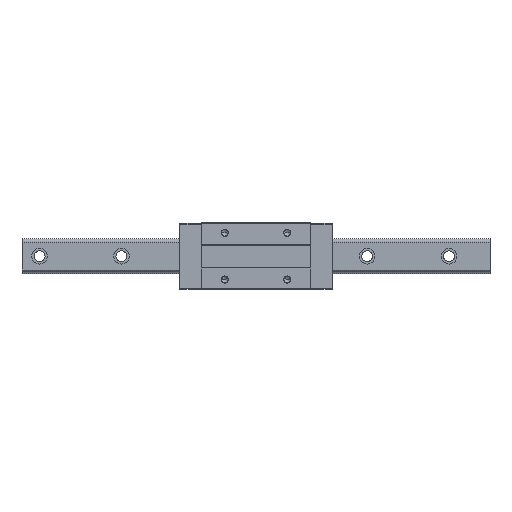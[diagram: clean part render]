
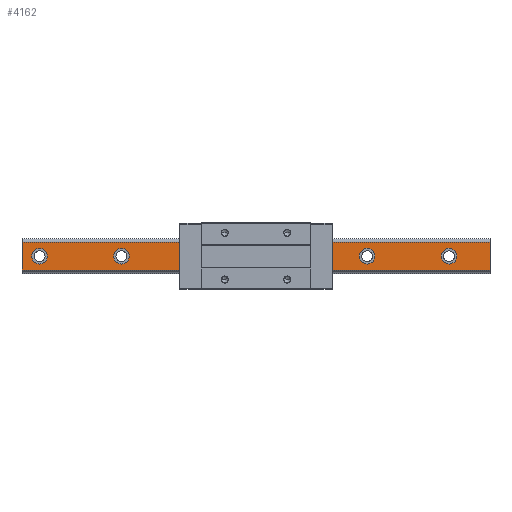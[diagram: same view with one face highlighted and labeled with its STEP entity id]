
A CAD part, top view. The second image highlights one B-rep face of the part: STEP entity #4162.
In plain terms, the highlighted planar face has unit normal (0, 0, 1).
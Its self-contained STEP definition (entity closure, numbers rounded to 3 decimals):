
#39 = ORIENTED_EDGE ( 'NONE', *, *, #1116, .F. ) ;
#43 = CARTESIAN_POINT ( 'NONE',  ( 37.5, 0., 32. ) ) ;
#102 = CARTESIAN_POINT ( 'NONE',  ( -162.5, 0., 32. ) ) ;
#106 = ORIENTED_EDGE ( 'NONE', *, *, #593, .F. ) ;
#157 = CARTESIAN_POINT ( 'NONE',  ( 300., -17.696, 32. ) ) ;
#190 = DIRECTION ( 'NONE',  ( 0., -1., 0. ) ) ;
#211 = VERTEX_POINT ( 'NONE', #3973 ) ;
#224 = DIRECTION ( 'NONE',  ( -1., 0., 0. ) ) ;
#291 = LINE ( 'NONE', #5341, #3657 ) ;
#531 = VERTEX_POINT ( 'NONE', #1615 ) ;
#534 = PLANE ( 'NONE',  #5217 ) ;
#586 = CARTESIAN_POINT ( 'NONE',  ( -67.5, 0., 32. ) ) ;
#593 = EDGE_CURVE ( 'NONE', #531, #3834, #2947, .T. ) ;
#600 = EDGE_LOOP ( 'NONE', ( #4844, #4941 ) ) ;
#648 = CIRCLE ( 'NONE', #1095, 10. ) ;
#811 = EDGE_CURVE ( 'NONE', #5407, #531, #291, .T. ) ;
#845 = CIRCLE ( 'NONE', #3008, 10. ) ;
#907 = DIRECTION ( 'NONE',  ( 0., 0., 1. ) ) ;
#943 = EDGE_CURVE ( 'NONE', #5407, #4430, #1106, .T. ) ;
#956 = FACE_BOUND ( 'NONE', #1459, .T. ) ;
#988 = CARTESIAN_POINT ( 'NONE',  ( -182.5, 0., 32. ) ) ;
#1011 = EDGE_CURVE ( 'NONE', #3149, #5483, #1248, .T. ) ;
#1034 = DIRECTION ( 'NONE',  ( 0., 0., 1. ) ) ;
#1044 = FACE_BOUND ( 'NONE', #2708, .T. ) ;
#1079 = EDGE_CURVE ( 'NONE', #2415, #4483, #3605, .T. ) ;
#1095 = AXIS2_PLACEMENT_3D ( 'NONE', #43, #4334, #4360 ) ;
#1106 = LINE ( 'NONE', #3215, #4690 ) ;
#1116 = EDGE_CURVE ( 'NONE', #4483, #2415, #1344, .T. ) ;
#1248 = CIRCLE ( 'NONE', #4322, 10. ) ;
#1250 = CARTESIAN_POINT ( 'NONE',  ( 37.5, 0., 32. ) ) ;
#1256 = AXIS2_PLACEMENT_3D ( 'NONE', #5539, #3000, #4724 ) ;
#1344 = CIRCLE ( 'NONE', #1791, 10. ) ;
#1392 = EDGE_CURVE ( 'NONE', #5483, #3149, #4118, .T. ) ;
#1401 = DIRECTION ( 'NONE',  ( 1., 0., 0. ) ) ;
#1422 = ORIENTED_EDGE ( 'NONE', *, *, #943, .T. ) ;
#1437 = ORIENTED_EDGE ( 'NONE', *, *, #1011, .F. ) ;
#1459 = EDGE_LOOP ( 'NONE', ( #1437, #4706 ) ) ;
#1462 = AXIS2_PLACEMENT_3D ( 'NONE', #2326, #4516, #4093 ) ;
#1493 = AXIS2_PLACEMENT_3D ( 'NONE', #4880, #4827, #4851 ) ;
#1607 = DIRECTION ( 'NONE',  ( 1., 0., 0. ) ) ;
#1615 = CARTESIAN_POINT ( 'NONE',  ( 300., -17.696, 32. ) ) ;
#1639 = VECTOR ( 'NONE', #2518, 1000. ) ;
#1665 = AXIS2_PLACEMENT_3D ( 'NONE', #2670, #3160, #1401 ) ;
#1740 = EDGE_CURVE ( 'NONE', #2689, #1916, #3936, .T. ) ;
#1743 = ORIENTED_EDGE ( 'NONE', *, *, #1740, .F. ) ;
#1791 = AXIS2_PLACEMENT_3D ( 'NONE', #2367, #2421, #1607 ) ;
#1887 = DIRECTION ( 'NONE',  ( 0., 0., -1. ) ) ;
#1916 = VERTEX_POINT ( 'NONE', #5537 ) ;
#1971 = ORIENTED_EDGE ( 'NONE', *, *, #2696, .T. ) ;
#2039 = EDGE_LOOP ( 'NONE', ( #2811, #3130 ) ) ;
#2049 = CARTESIAN_POINT ( 'NONE',  ( -172.5, 0., 32. ) ) ;
#2056 = AXIS2_PLACEMENT_3D ( 'NONE', #3543, #907, #2659 ) ;
#2128 = CARTESIAN_POINT ( 'NONE',  ( 300., 17.696, 32. ) ) ;
#2129 = CARTESIAN_POINT ( 'NONE',  ( 152.5, 0., 32. ) ) ;
#2253 = VERTEX_POINT ( 'NONE', #2701 ) ;
#2293 = ORIENTED_EDGE ( 'NONE', *, *, #3530, .F. ) ;
#2308 = FACE_BOUND ( 'NONE', #600, .T. ) ;
#2326 = CARTESIAN_POINT ( 'NONE',  ( -277.5, 0., 32. ) ) ;
#2367 = CARTESIAN_POINT ( 'NONE',  ( 142.5, 0., 32. ) ) ;
#2379 = CARTESIAN_POINT ( 'NONE',  ( -300., 17.696, 32. ) ) ;
#2395 = CARTESIAN_POINT ( 'NONE',  ( 142.5, 0., 32. ) ) ;
#2415 = VERTEX_POINT ( 'NONE', #2129 ) ;
#2421 = DIRECTION ( 'NONE',  ( 0., 0., 1. ) ) ;
#2512 = ORIENTED_EDGE ( 'NONE', *, *, #4508, .F. ) ;
#2518 = DIRECTION ( 'NONE',  ( -1., 0., 0. ) ) ;
#2605 = AXIS2_PLACEMENT_3D ( 'NONE', #2395, #4187, #3798 ) ;
#2659 = DIRECTION ( 'NONE',  ( 1., 0., 0. ) ) ;
#2670 = CARTESIAN_POINT ( 'NONE',  ( -172.5, 0., 32. ) ) ;
#2679 = EDGE_LOOP ( 'NONE', ( #1743, #2512 ) ) ;
#2682 = FACE_BOUND ( 'NONE', #4090, .T. ) ;
#2689 = VERTEX_POINT ( 'NONE', #4506 ) ;
#2696 = EDGE_CURVE ( 'NONE', #4430, #3834, #4563, .T. ) ;
#2701 = CARTESIAN_POINT ( 'NONE',  ( 27.5, 0., 32. ) ) ;
#2708 = EDGE_LOOP ( 'NONE', ( #2293, #4023 ) ) ;
#2772 = EDGE_CURVE ( 'NONE', #4699, #211, #845, .T. ) ;
#2811 = ORIENTED_EDGE ( 'NONE', *, *, #3442, .F. ) ;
#2947 = LINE ( 'NONE', #4589, #1639 ) ;
#3000 = DIRECTION ( 'NONE',  ( 0., 0., 1. ) ) ;
#3003 = CIRCLE ( 'NONE', #1462, 10. ) ;
#3008 = AXIS2_PLACEMENT_3D ( 'NONE', #3553, #3444, #5166 ) ;
#3130 = ORIENTED_EDGE ( 'NONE', *, *, #3818, .F. ) ;
#3149 = VERTEX_POINT ( 'NONE', #102 ) ;
#3160 = DIRECTION ( 'NONE',  ( 0., 0., 1. ) ) ;
#3215 = CARTESIAN_POINT ( 'NONE',  ( 300., 17.696, 32. ) ) ;
#3222 = CARTESIAN_POINT ( 'NONE',  ( 47.5, 0., 32. ) ) ;
#3267 = EDGE_LOOP ( 'NONE', ( #1971, #106, #4655, #1422 ) ) ;
#3281 = VECTOR ( 'NONE', #190, 1000. ) ;
#3415 = CIRCLE ( 'NONE', #2056, 10. ) ;
#3418 = VERTEX_POINT ( 'NONE', #3850 ) ;
#3440 = DIRECTION ( 'NONE',  ( 1., 0., 0. ) ) ;
#3442 = EDGE_CURVE ( 'NONE', #3510, #3418, #3709, .T. ) ;
#3443 = AXIS2_PLACEMENT_3D ( 'NONE', #586, #1034, #4074 ) ;
#3444 = DIRECTION ( 'NONE',  ( 0., 0., 1. ) ) ;
#3500 = CIRCLE ( 'NONE', #4049, 10. ) ;
#3510 = VERTEX_POINT ( 'NONE', #4046 ) ;
#3530 = EDGE_CURVE ( 'NONE', #211, #4699, #4615, .T. ) ;
#3537 = CARTESIAN_POINT ( 'NONE',  ( -77.5, 0., 32. ) ) ;
#3543 = CARTESIAN_POINT ( 'NONE',  ( 247.5, 0., 32. ) ) ;
#3553 = CARTESIAN_POINT ( 'NONE',  ( -67.5, 0., 32. ) ) ;
#3578 = VERTEX_POINT ( 'NONE', #3222 ) ;
#3605 = CIRCLE ( 'NONE', #2605, 10. ) ;
#3618 = DIRECTION ( 'NONE',  ( 0., -1., 0. ) ) ;
#3623 = DIRECTION ( 'NONE',  ( -1., 0., 0. ) ) ;
#3657 = VECTOR ( 'NONE', #3618, 1000. ) ;
#3709 = CIRCLE ( 'NONE', #1256, 10. ) ;
#3785 = DIRECTION ( 'NONE',  ( 1., 0., 0. ) ) ;
#3798 = DIRECTION ( 'NONE',  ( 1., 0., 0. ) ) ;
#3818 = EDGE_CURVE ( 'NONE', #3418, #3510, #3415, .T. ) ;
#3834 = VERTEX_POINT ( 'NONE', #4421 ) ;
#3850 = CARTESIAN_POINT ( 'NONE',  ( 237.5, 0., 32. ) ) ;
#3936 = CIRCLE ( 'NONE', #1493, 10. ) ;
#3973 = CARTESIAN_POINT ( 'NONE',  ( -57.5, 0., 32. ) ) ;
#4023 = ORIENTED_EDGE ( 'NONE', *, *, #2772, .F. ) ;
#4046 = CARTESIAN_POINT ( 'NONE',  ( 257.5, 0., 32. ) ) ;
#4049 = AXIS2_PLACEMENT_3D ( 'NONE', #1250, #5583, #3440 ) ;
#4055 = FACE_OUTER_BOUND ( 'NONE', #3267, .T. ) ;
#4074 = DIRECTION ( 'NONE',  ( 1., 0., 0. ) ) ;
#4090 = EDGE_LOOP ( 'NONE', ( #5213, #39 ) ) ;
#4093 = DIRECTION ( 'NONE',  ( 1., 0., 0. ) ) ;
#4118 = CIRCLE ( 'NONE', #1665, 10. ) ;
#4162 = ADVANCED_FACE ( 'NONE', ( #4475, #956, #1044, #2308, #2682, #4414, #4055 ), #534, .F. ) ;
#4187 = DIRECTION ( 'NONE',  ( 0., 0., 1. ) ) ;
#4198 = EDGE_CURVE ( 'NONE', #2253, #3578, #3500, .T. ) ;
#4204 = DIRECTION ( 'NONE',  ( 0., 0., 1. ) ) ;
#4322 = AXIS2_PLACEMENT_3D ( 'NONE', #2049, #4204, #3785 ) ;
#4334 = DIRECTION ( 'NONE',  ( 0., 0., 1. ) ) ;
#4360 = DIRECTION ( 'NONE',  ( 1., 0., 0. ) ) ;
#4414 = FACE_BOUND ( 'NONE', #2039, .T. ) ;
#4421 = CARTESIAN_POINT ( 'NONE',  ( -300., -17.696, 32. ) ) ;
#4430 = VERTEX_POINT ( 'NONE', #2379 ) ;
#4455 = CARTESIAN_POINT ( 'NONE',  ( 132.5, 0., 32. ) ) ;
#4475 = FACE_BOUND ( 'NONE', #2679, .T. ) ;
#4483 = VERTEX_POINT ( 'NONE', #4455 ) ;
#4506 = CARTESIAN_POINT ( 'NONE',  ( -267.5, 0., 32. ) ) ;
#4508 = EDGE_CURVE ( 'NONE', #1916, #2689, #3003, .T. ) ;
#4516 = DIRECTION ( 'NONE',  ( 0., 0., 1. ) ) ;
#4563 = LINE ( 'NONE', #4961, #3281 ) ;
#4589 = CARTESIAN_POINT ( 'NONE',  ( 300., -17.696, 32. ) ) ;
#4615 = CIRCLE ( 'NONE', #3443, 10. ) ;
#4655 = ORIENTED_EDGE ( 'NONE', *, *, #811, .F. ) ;
#4687 = EDGE_CURVE ( 'NONE', #3578, #2253, #648, .T. ) ;
#4690 = VECTOR ( 'NONE', #224, 1000. ) ;
#4699 = VERTEX_POINT ( 'NONE', #3537 ) ;
#4706 = ORIENTED_EDGE ( 'NONE', *, *, #1392, .F. ) ;
#4724 = DIRECTION ( 'NONE',  ( 1., 0., 0. ) ) ;
#4827 = DIRECTION ( 'NONE',  ( 0., 0., 1. ) ) ;
#4844 = ORIENTED_EDGE ( 'NONE', *, *, #4687, .F. ) ;
#4851 = DIRECTION ( 'NONE',  ( 1., 0., 0. ) ) ;
#4880 = CARTESIAN_POINT ( 'NONE',  ( -277.5, 0., 32. ) ) ;
#4941 = ORIENTED_EDGE ( 'NONE', *, *, #4198, .F. ) ;
#4961 = CARTESIAN_POINT ( 'NONE',  ( -300., -17.696, 32. ) ) ;
#5166 = DIRECTION ( 'NONE',  ( 1., 0., 0. ) ) ;
#5213 = ORIENTED_EDGE ( 'NONE', *, *, #1079, .F. ) ;
#5217 = AXIS2_PLACEMENT_3D ( 'NONE', #157, #1887, #3623 ) ;
#5341 = CARTESIAN_POINT ( 'NONE',  ( 300., -17.696, 32. ) ) ;
#5407 = VERTEX_POINT ( 'NONE', #2128 ) ;
#5483 = VERTEX_POINT ( 'NONE', #988 ) ;
#5537 = CARTESIAN_POINT ( 'NONE',  ( -287.5, 0., 32. ) ) ;
#5539 = CARTESIAN_POINT ( 'NONE',  ( 247.5, 0., 32. ) ) ;
#5583 = DIRECTION ( 'NONE',  ( 0., 0., 1. ) ) ;
